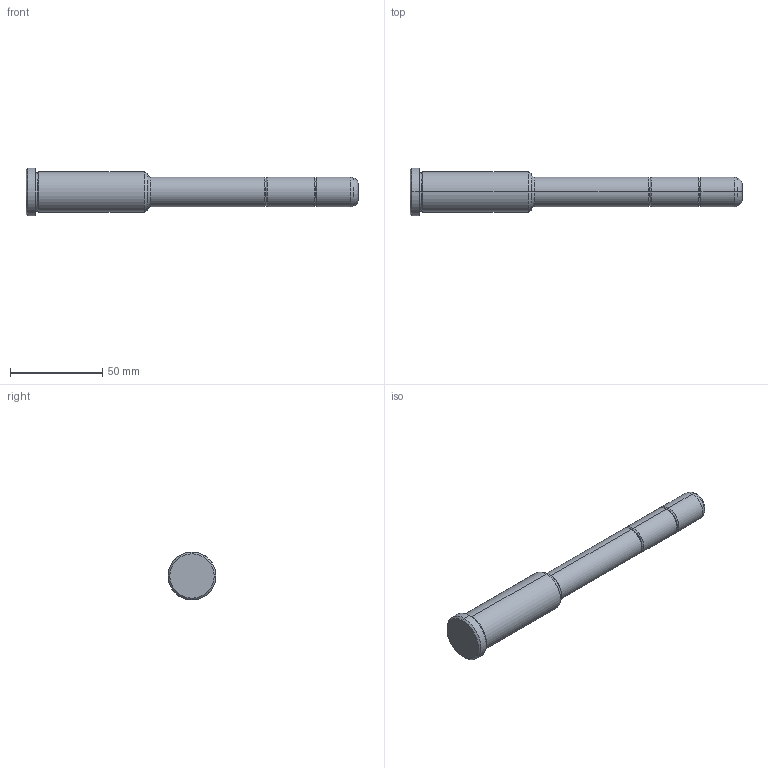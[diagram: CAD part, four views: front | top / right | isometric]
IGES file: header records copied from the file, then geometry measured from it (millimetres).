
Start section: START RECORD GO HERE.
Global section: file name: 351-16X66X180.igs; native system: DASSAULT SYSTEMES CATIA V5 R20 - www.3ds.com; preprocessor: CATIA Version 5 Release 20 ; author: Utente; organization: NB04-ASUS; date: 20210818.134338; units: millimetre
Bounding box: 180 x 26 x 26 mm (x, y, z)
Surface area: 11237.9 mm2 (no closed solid volume)
Topology: 0 solids, 0 shells, 36 faces, 204 edges, 204 vertices
Faces by surface type: revolution 32, plane 4
